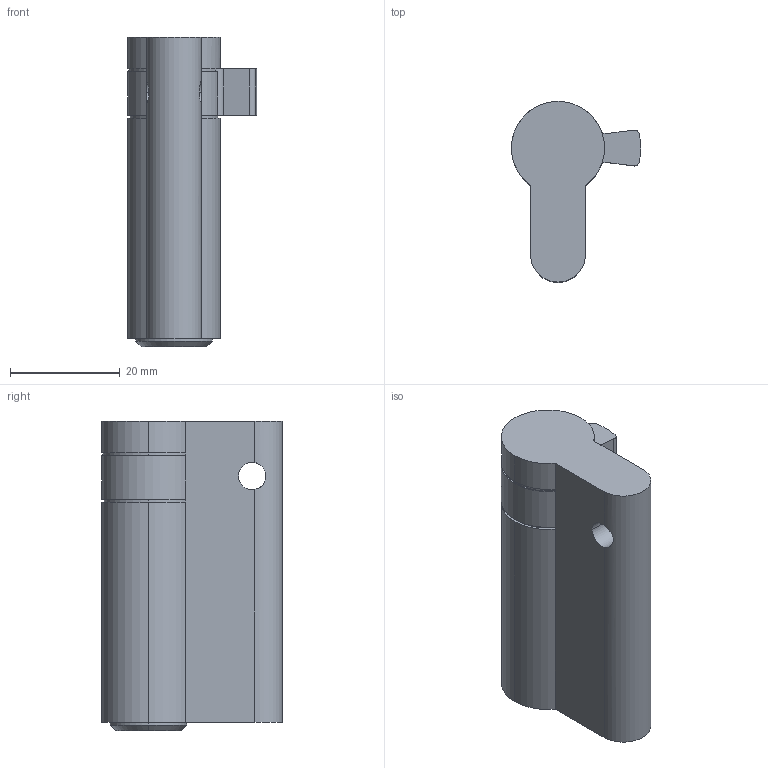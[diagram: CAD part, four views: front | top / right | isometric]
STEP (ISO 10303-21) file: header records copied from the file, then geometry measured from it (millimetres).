
FILE_DESCRIPTION (( 'STEP AP214' ), '1' );
FILE_NAME ('TPL-H-EU-509-L 29Oct2024.STEP', '2024-10-29T22:14:07', ( '' ), ( '' ), 'SwSTEP 2.0', 'SolidWorks 2023', '' );
FILE_SCHEMA (( 'AUTOMOTIVE_DESIGN' ));
Length unit declared in the file: millimetre
Products named in the file (1): TPL-H-EU-509-L 29Oct2024
Bounding box: 23.58 x 33 x 56.5 mm (x, y, z)
Volume: 20987.3 mm3; surface area: 6231.2 mm2
Topology: 1 solids, 1 shells, 45 faces, 124 edges, 78 vertices
Faces by surface type: cylinder 26, plane 16, cone 3
Entity records: 1540 total; most frequent: CARTESIAN_POINT 318, DIRECTION 271, ORIENTED_EDGE 248, EDGE_CURVE 124, AXIS2_PLACEMENT_3D 107, VERTEX_POINT 78, CIRCLE 61, VECTOR 57
